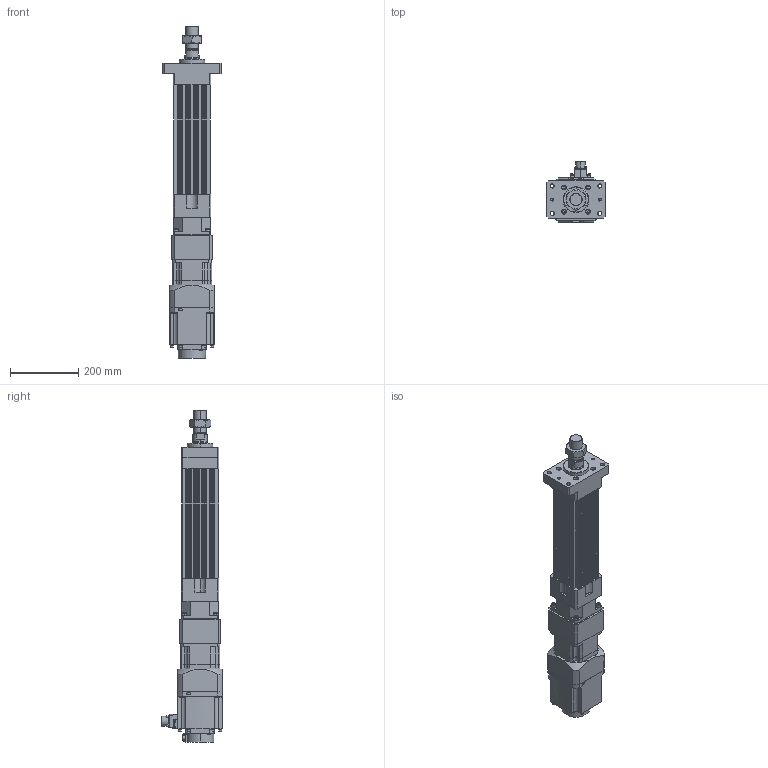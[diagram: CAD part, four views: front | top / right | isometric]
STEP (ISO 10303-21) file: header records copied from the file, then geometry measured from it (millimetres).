
FILE_DESCRIPTION (( 'STEP AP203' ), '1' );
FILE_NAME ('HES110NS(HS)-S150-W015G00-M-FM.STEP', '2023-01-28T06:02:16', ( 'tms' ), ( '' ), 'SwSTEP 2.0', 'SolidWorks 2013', '' );
FILE_SCHEMA (( 'CONFIG_CONTROL_DESIGN' ));
Length unit declared in the file: millimetre
Products named in the file (8): HES110 ROD M ST150; HG-SR152; HES110NS(HS)-S150-W015G00-M-FM; P0401400706; M36X1.5P; HES110-S150-G120-FM; AB1151; AB115-003[HG-SR152]
Assembly tree (7 placements, depth 3):
  HES110NS(HS)-S150-W015G00-M-FM
    HES110-S150-G120-FM
    HES110 ROD M ST150
    AB115-003[HG-SR152]
      AB1151
      P0401400706
    HG-SR152
    M36X1.5P
Bounding box: 170 x 177.49 x 971.5 mm (x, y, z)
Volume: 6414375.8 mm3; surface area: 847257.5 mm2
Topology: 4 solids, 15 shells, 1170 faces, 2958 edges, 1925 vertices
Faces by surface type: plane 559, cylinder 525, cone 74, bspline 8, torus 4
Entity records: 36974 total; most frequent: CARTESIAN_POINT 7028, DIRECTION 6389, ORIENTED_EDGE 5864, EDGE_CURVE 2942, AXIS2_PLACEMENT_3D 2346, VERTEX_POINT 1925, VECTOR 1697, LINE 1697
